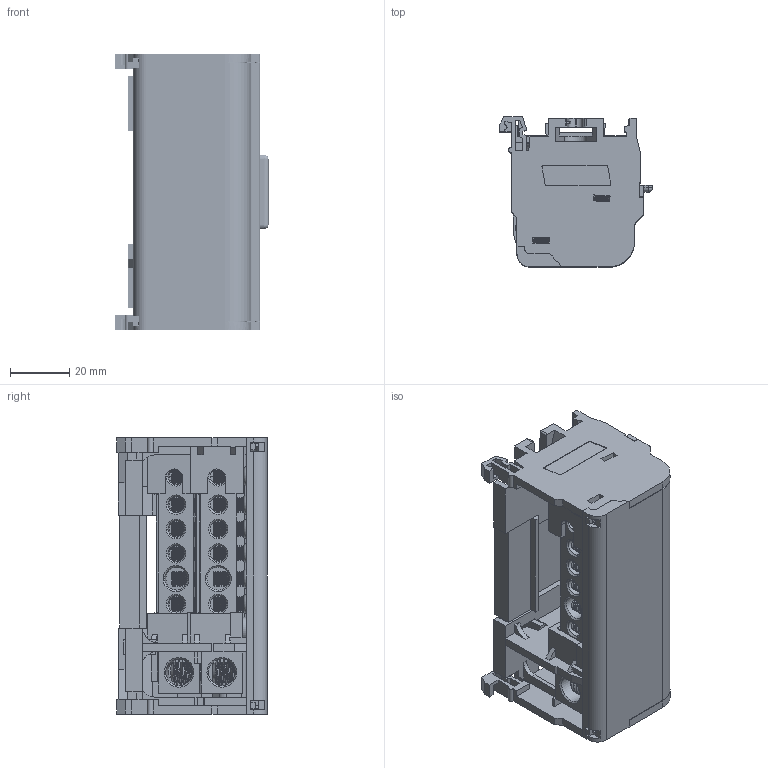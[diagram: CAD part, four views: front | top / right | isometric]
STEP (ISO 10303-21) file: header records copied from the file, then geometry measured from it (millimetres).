
FILE_DESCRIPTION(/* description */ (''),/* implementation_level */ '2;1');
FILE_NAME(/* name */ 'UK207.stp',/* time_stamp */ '2019-12-10T14:50:30+08:00',/* author */ (''),/* organization */ (''),/* preprocessor_version */ 'ST-DEVELOPER v16',/* originating_system */ 'SIEMENS PLM Software NX 10.0',/* authorisation */ '');
FILE_SCHEMA (('AUTOMOTIVE_DESIGN { 1 0 10303 214 3 1 1 1 }'));
Products named in the file (1): Admi1A6064079uy7
Bounding box: 51.5 x 50.5 x 93 mm (x, y, z)
Volume: 58034.3 mm3; surface area: 67575.8 mm2
Topology: 27 solids, 27 shells, 1209 faces, 3444 edges, 2278 vertices
Faces by surface type: plane 878, cylinder 180, bspline 93, cone 42, torus 14, sphere 2
Full cylindrical faces by diameter (mm): 4.3 x14, 5.5 x10, 6 x2, 6.5 x12, 7.7 x2, 8 x2, 9 x2
Entity records: 95315 total; most frequent: CARTESIAN_POINT 64266, ORIENTED_EDGE 6556, DIRECTION 5447, EDGE_CURVE 3278, LINE 2359, VECTOR 2359, VERTEX_POINT 2212, AXIS2_PLACEMENT_3D 1544
